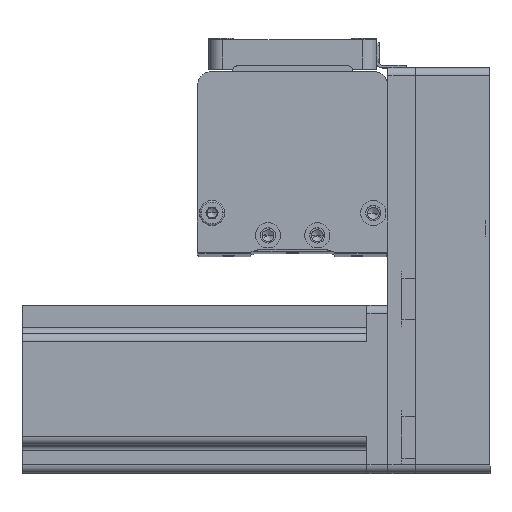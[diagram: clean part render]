
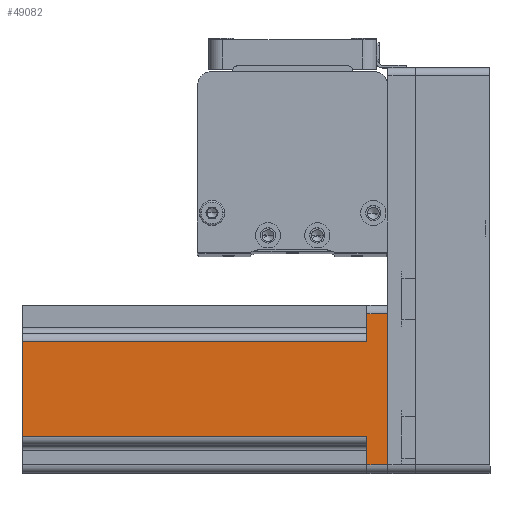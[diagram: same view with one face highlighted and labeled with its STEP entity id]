
A CAD part, top view. The second image highlights one B-rep face of the part: STEP entity #49082.
In plain terms, the highlighted planar face has unit normal (0, 0, 1) as drawn and (0, 1, 0) by its records, which use the part's own axes.
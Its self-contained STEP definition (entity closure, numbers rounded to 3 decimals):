
#510 = LINE ( 'NONE', #4421, #40550 ) ;
#1650 = VECTOR ( 'NONE', #35560, 1000. ) ;
#1870 = CARTESIAN_POINT ( 'NONE',  ( -17., 30., 7.5 ) ) ;
#2166 = DIRECTION ( 'NONE',  ( 0., 0., -1. ) ) ;
#2825 = CARTESIAN_POINT ( 'NONE',  ( -27., 30., 130.7 ) ) ;
#3292 = EDGE_CURVE ( 'NONE', #19387, #11711, #48359, .T. ) ;
#4332 = CARTESIAN_POINT ( 'NONE',  ( -17., 30., 130.7 ) ) ;
#4421 = CARTESIAN_POINT ( 'NONE',  ( 30., 30., 130.7 ) ) ;
#4686 = VECTOR ( 'NONE', #2166, 1000. ) ;
#4761 = VERTEX_POINT ( 'NONE', #34285 ) ;
#4972 = CARTESIAN_POINT ( 'NONE',  ( 17., 30., 130.7 ) ) ;
#5525 = CARTESIAN_POINT ( 'NONE',  ( 20., 30., 7.5 ) ) ;
#5899 = EDGE_CURVE ( 'NONE', #29977, #4761, #510, .T. ) ;
#7552 = LINE ( 'NONE', #2825, #42136 ) ;
#7589 = CARTESIAN_POINT ( 'NONE',  ( 17., 30., 7.5 ) ) ;
#7667 = ORIENTED_EDGE ( 'NONE', *, *, #3292, .T. ) ;
#7797 = LINE ( 'NONE', #4332, #37473 ) ;
#8490 = CARTESIAN_POINT ( 'NONE',  ( -20., 30., 7.5 ) ) ;
#8503 = CARTESIAN_POINT ( 'NONE',  ( 30., 30., 0. ) ) ;
#8569 = VERTEX_POINT ( 'NONE', #12025 ) ;
#9298 = LINE ( 'NONE', #8490, #14102 ) ;
#9463 = DIRECTION ( 'NONE',  ( -1., 0., 0. ) ) ;
#9597 = EDGE_CURVE ( 'NONE', #18011, #50138, #27507, .T. ) ;
#10833 = DIRECTION ( 'NONE',  ( 0., 0., 1. ) ) ;
#11711 = VERTEX_POINT ( 'NONE', #28648 ) ;
#11996 = DIRECTION ( 'NONE',  ( 0., -1., 0. ) ) ;
#12025 = CARTESIAN_POINT ( 'NONE',  ( -27., 30., 7.5 ) ) ;
#12539 = EDGE_CURVE ( 'NONE', #11711, #8569, #7552, .T. ) ;
#14102 = VECTOR ( 'NONE', #43225, 1000. ) ;
#14119 = ORIENTED_EDGE ( 'NONE', *, *, #26931, .T. ) ;
#14989 = VECTOR ( 'NONE', #46740, 1000. ) ;
#15037 = LINE ( 'NONE', #29276, #4686 ) ;
#17989 = ORIENTED_EDGE ( 'NONE', *, *, #12539, .T. ) ;
#18011 = VERTEX_POINT ( 'NONE', #20338 ) ;
#18279 = EDGE_CURVE ( 'NONE', #29977, #50138, #15037, .T. ) ;
#18639 = EDGE_CURVE ( 'NONE', #18011, #19387, #27699, .T. ) ;
#19387 = VERTEX_POINT ( 'NONE', #44119 ) ;
#20338 = CARTESIAN_POINT ( 'NONE',  ( 27., 30., 7.5 ) ) ;
#23333 = EDGE_LOOP ( 'NONE', ( #49586, #14119, #37977, #24199, #24429, #48835, #7667, #17989 ) ) ;
#24199 = ORIENTED_EDGE ( 'NONE', *, *, #18279, .T. ) ;
#24429 = ORIENTED_EDGE ( 'NONE', *, *, #9597, .F. ) ;
#26931 = EDGE_CURVE ( 'NONE', #37047, #4761, #7797, .T. ) ;
#27377 = CARTESIAN_POINT ( 'NONE',  ( 27., 30., 130.7 ) ) ;
#27507 = LINE ( 'NONE', #5525, #45726 ) ;
#27699 = LINE ( 'NONE', #27377, #14989 ) ;
#28648 = CARTESIAN_POINT ( 'NONE',  ( -27., 30., 0. ) ) ;
#29276 = CARTESIAN_POINT ( 'NONE',  ( 17., 30., 130.7 ) ) ;
#29977 = VERTEX_POINT ( 'NONE', #4972 ) ;
#31385 = AXIS2_PLACEMENT_3D ( 'NONE', #35162, #11996, #39075 ) ;
#31496 = DIRECTION ( 'NONE',  ( 0., 0., 1. ) ) ;
#31577 = DIRECTION ( 'NONE',  ( -1., 0., 0. ) ) ;
#34285 = CARTESIAN_POINT ( 'NONE',  ( -17., 30., 130.7 ) ) ;
#35162 = CARTESIAN_POINT ( 'NONE',  ( 30., 30., 130.7 ) ) ;
#35560 = DIRECTION ( 'NONE',  ( -1., 0., 0. ) ) ;
#37041 = FACE_OUTER_BOUND ( 'NONE', #23333, .T. ) ;
#37047 = VERTEX_POINT ( 'NONE', #1870 ) ;
#37473 = VECTOR ( 'NONE', #31496, 1000. ) ;
#37977 = ORIENTED_EDGE ( 'NONE', *, *, #5899, .F. ) ;
#38913 = PLANE ( 'NONE',  #31385 ) ;
#39075 = DIRECTION ( 'NONE',  ( 1., 0., 0. ) ) ;
#40550 = VECTOR ( 'NONE', #31577, 1000. ) ;
#42136 = VECTOR ( 'NONE', #10833, 1000. ) ;
#43225 = DIRECTION ( 'NONE',  ( 1., 0., 0. ) ) ;
#44119 = CARTESIAN_POINT ( 'NONE',  ( 27., 30., 0. ) ) ;
#45726 = VECTOR ( 'NONE', #9463, 1000. ) ;
#46740 = DIRECTION ( 'NONE',  ( 0., 0., -1. ) ) ;
#48359 = LINE ( 'NONE', #8503, #1650 ) ;
#48588 = EDGE_CURVE ( 'NONE', #8569, #37047, #9298, .T. ) ;
#48835 = ORIENTED_EDGE ( 'NONE', *, *, #18639, .T. ) ;
#49082 = ADVANCED_FACE ( 'NONE', ( #37041 ), #38913, .F. ) ;
#49586 = ORIENTED_EDGE ( 'NONE', *, *, #48588, .T. ) ;
#50138 = VERTEX_POINT ( 'NONE', #7589 ) ;
